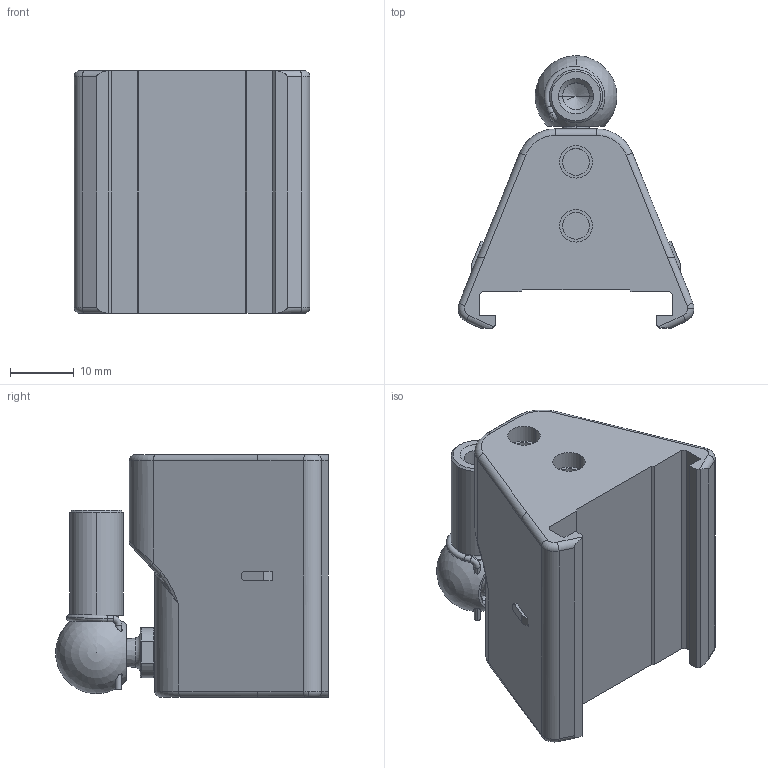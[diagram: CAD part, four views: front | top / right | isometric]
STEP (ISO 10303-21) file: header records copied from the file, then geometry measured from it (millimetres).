
FILE_DESCRIPTION (( 'STEP AP203' ), '1' );
FILE_NAME ('PCUR212.STEP', '2019-05-08T07:35:13', ( '' ), ( '' ), 'SwSTEP 2.0', 'SolidWorks 2019', '' );
FILE_SCHEMA (( 'CONFIG_CONTROL_DESIGN' ));
Length unit declared in the file: millimetre
Products named in the file (1): PCUR212
Bounding box: 36.91 x 42.68 x 38 mm (x, y, z)
Volume: 23551.7 mm3; surface area: 9590 mm2
Topology: 5 solids, 6 shells, 203 faces, 484 edges, 300 vertices
Faces by surface type: plane 67, cylinder 64, torus 42, cone 14, bspline 10, sphere 6
Entity records: 6448 total; most frequent: CARTESIAN_POINT 1753, DIRECTION 1012, ORIENTED_EDGE 938, EDGE_CURVE 469, AXIS2_PLACEMENT_3D 409, VERTEX_POINT 293, EDGE_LOOP 222, CIRCLE 215
